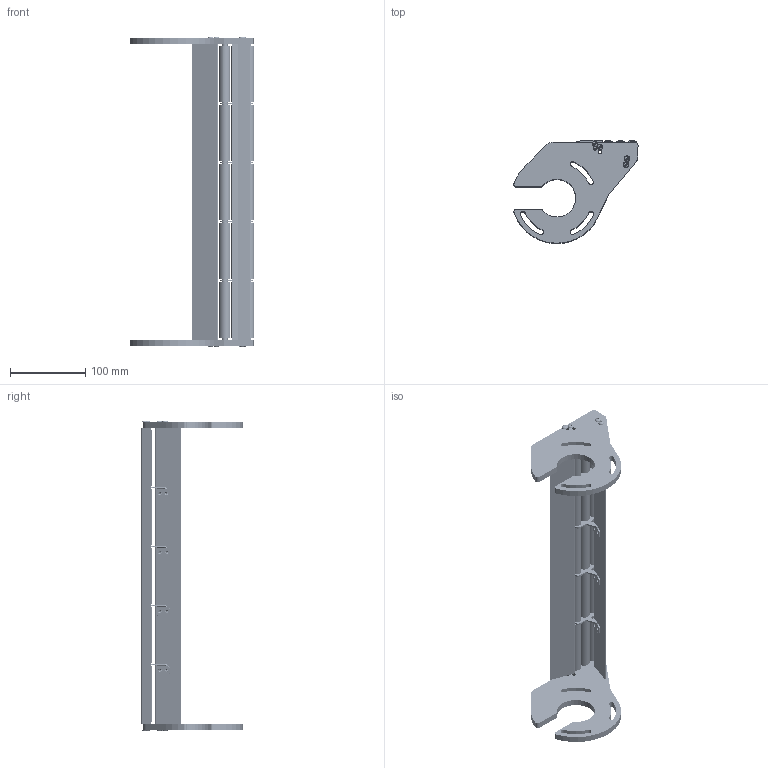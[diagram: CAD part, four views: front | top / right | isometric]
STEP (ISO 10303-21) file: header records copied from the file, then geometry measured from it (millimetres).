
FILE_DESCRIPTION (( 'STEP AP214' ), '1' );
FILE_NAME ('CAB 15 TGRI 1.STEP', '2024-02-27T08:05:14', ( '' ), ( '' ), 'SwSTEP 2.0', 'SolidWorks 2022', '' );
FILE_SCHEMA (( 'AUTOMOTIVE_DESIGN' ));
Length unit declared in the file: millimetre
Products named in the file (15): SA TGRI; SA TGRI + ENTRETOISE; PT-F2 - CAB 15; ENTRETOISE SA TGRI; PT-F2 - CAB 15 percé; TBHC 4X16; ENTRETOISE TGRI CAB-F2-R-HEF; PSTI CAB 1; AXE TGRI CAB 15; PSTI CAB 1 Symétrie; GR CAB 15; ROULEMENT TGRI CAB FLEXTOO; CAB 15 TGRI 1; Insert M4 TB; Galet + roulement CAB 15
Assembly tree (55 placements, depth 3):
  CAB 15 TGRI 1
    PSTI CAB 1 Symétrie
    PSTI CAB 1
    PT-F2 - CAB 15
    PT-F2 - CAB 15 percé
    AXE TGRI CAB 15  x3
    ENTRETOISE TGRI CAB-F2-R-HEF  x6
    SA TGRI + ENTRETOISE  x4
      SA TGRI
      ENTRETOISE SA TGRI
    Galet + roulement CAB 15  x15
      GR CAB 15
      ROULEMENT TGRI CAB FLEXTOO
    Insert M4 TB  x8
    TBHC 4X16  x8
Bounding box: 164.87 x 136.6 x 412.78 mm (x, y, z)
Volume: 570584.2 mm3; surface area: 269408.2 mm2
Topology: 90 solids, 90 shells, 3080 faces, 6834 edges, 4048 vertices
Faces by surface type: cone 1064, cylinder 1002, plane 514, torus 428, sphere 52, bspline 20
Entity records: 18698 total; most frequent: CARTESIAN_POINT 3431, DIRECTION 3307, ORIENTED_EDGE 2728, EDGE_CURVE 1364, AXIS2_PLACEMENT_3D 1342, VERTEX_POINT 827, CIRCLE 703, EDGE_LOOP 645
